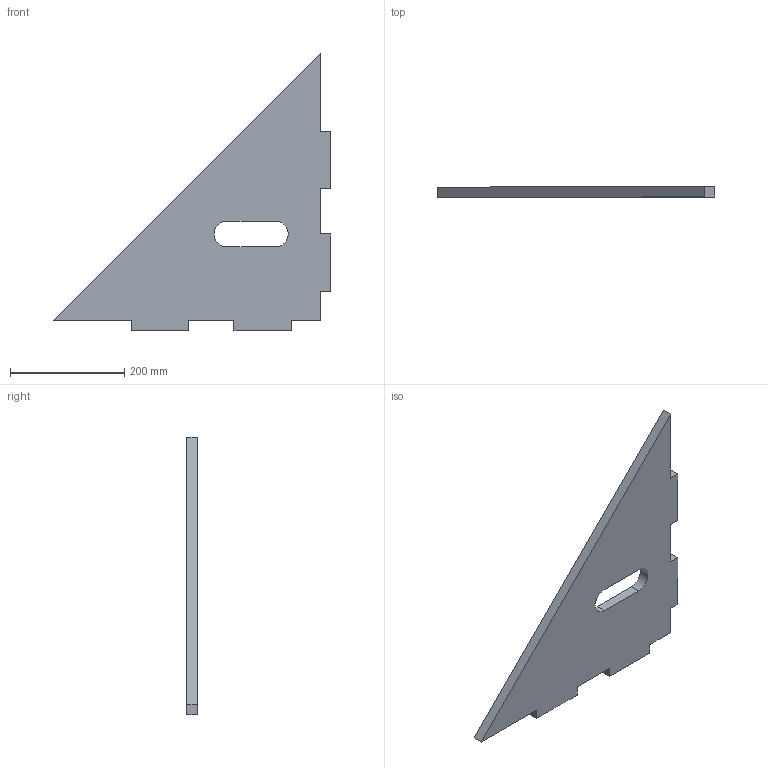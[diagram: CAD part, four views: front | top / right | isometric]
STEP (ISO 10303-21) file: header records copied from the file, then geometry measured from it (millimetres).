
FILE_DESCRIPTION(('Open CASCADE Model'),'2;1');
FILE_NAME('Open CASCADE Shape Model','2026-09-24T15:34:07',('Author'),( 'Open CASCADE'),'Open CASCADE STEP processor 7.9','Open CASCADE 7.9' ,'Unknown');
FILE_SCHEMA(('AUTOMOTIVE_DESIGN { 1 0 10303 214 1 1 1 1 }'));
Length unit declared in the file: millimetre
Products named in the file (1): Open CASCADE STEP translator 7.9 1
Bounding box: 487.27 x 18 x 487.27 mm (x, y, z)
Volume: 2014068.8 mm3; surface area: 260821.6 mm2
Topology: 1 solids, 1 shells, 25 faces, 69 edges, 46 vertices
Faces by surface type: plane 23, cylinder 2
Entity records: 1700 total; most frequent: CARTESIAN_POINT 313, DIRECTION 249, LINE 189, VECTOR 189, ORIENTED_EDGE 138, PCURVE 138, DEFINITIONAL_REPRESENTATION 138, EDGE_CURVE 69
